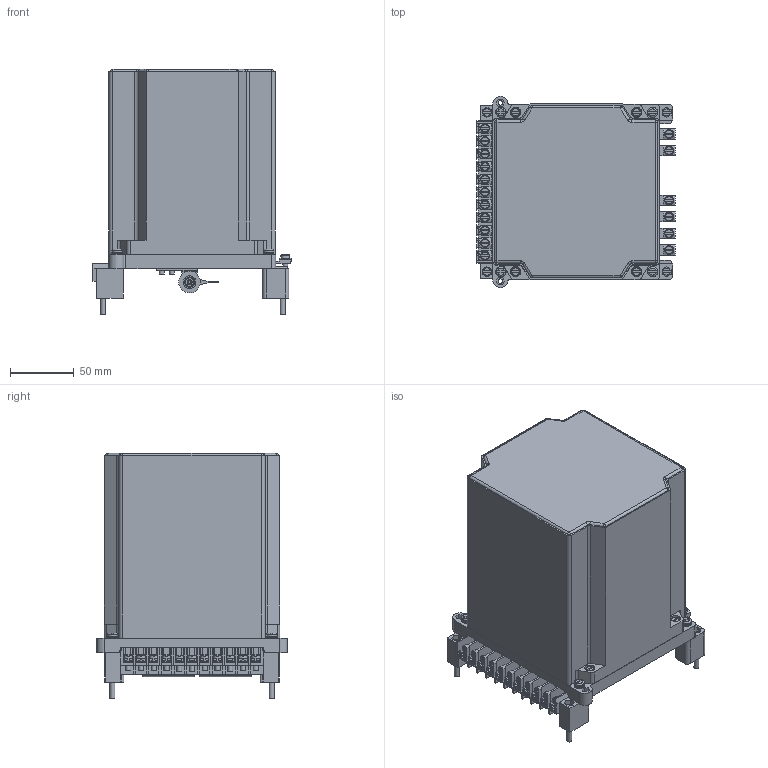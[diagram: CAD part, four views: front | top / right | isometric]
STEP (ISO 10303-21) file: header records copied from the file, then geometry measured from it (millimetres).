
FILE_DESCRIPTION(('STEP AP214'), '1');
FILE_NAME('ÐÒÔ-9 ï.ï.', '', ('UNSPECIFIED'), ('UNSPECIFIED'), 'ASCON STEP Converter 1.3', 'ASCON Math Kernel', '');
FILE_SCHEMA(('AUTOMOTIVE_DESIGN { 1 0 10303 214 3 1 1}'));
Length unit declared in the file: millimetre
Bounding box: 155.75 x 149.97 x 192.5 mm (x, y, z)
Volume: 2649591.4 mm3; surface area: 211917 mm2
Topology: 12 solids, 12 shells, 8265 faces, 20500 edges, 12409 vertices
Faces by surface type: plane 6659, cylinder 965, extrusion 435, torus 135, cone 71
Full cylindrical faces by diameter (mm): 2 x4, 3.2 x8, 3.5 x2, 4 x50, 4.3 x16, 4.5 x27, 5.2 x12, 5.3 x5, 5.9 x2, 7.5 x2, 8 x10, 8.5 x2, 10 x4, 17 x2
Entity records: 313204 total; most frequent: CARTESIAN_POINT 54941, ORIENTED_EDGE 40430, DIRECTION 37135, EDGE_CURVE 20215, VECTOR 16571, LINE 16136, VERTEX_POINT 12398, AXIS2_PLACEMENT_3D 10282
